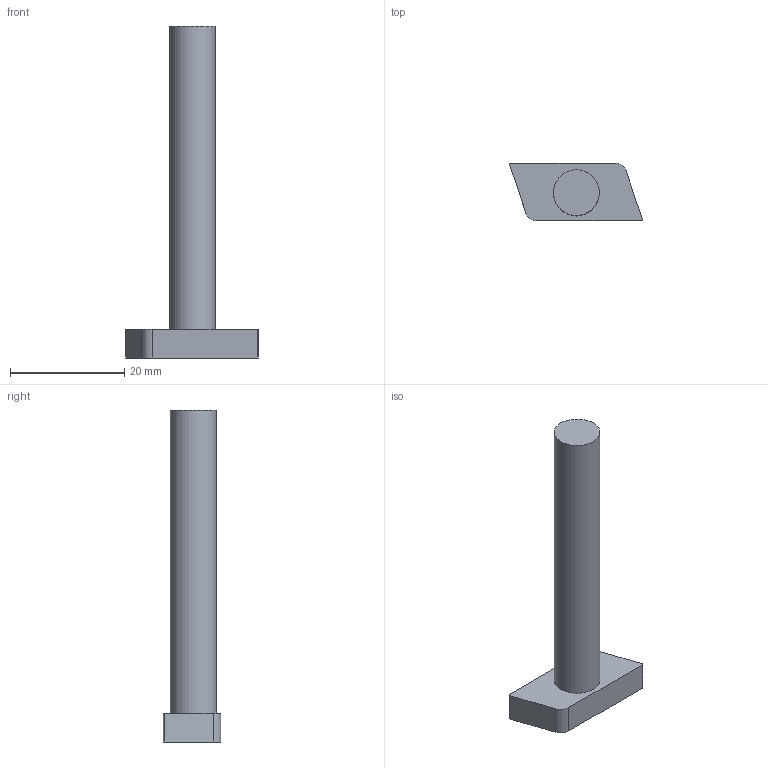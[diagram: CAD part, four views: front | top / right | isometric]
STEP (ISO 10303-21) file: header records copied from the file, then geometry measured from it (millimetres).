
FILE_DESCRIPTION((''),'2;1');
FILE_NAME('C:\Vault Klient\Projekt\Step\100-6090.stp','2009-12-10T12:48:17',('Mathias'),(''),'Autodesk Inventor 2010','Autodesk Inventor 2010','');
FILE_SCHEMA(('CONFIG_CONTROL_DESIGN'));
Length unit declared in the file: millimetre
Products named in the file (1): 100-6090
Bounding box: 23.21 x 10.11 x 58 mm (x, y, z)
Volume: 3670.5 mm3; surface area: 2035.5 mm2
Topology: 1 solids, 1 shells, 12 faces, 27 edges, 18 vertices
Faces by surface type: plane 7, cylinder 5
Full cylindrical faces by diameter (mm): 8 x1
Entity records: 362 total; most frequent: DIRECTION 62, CARTESIAN_POINT 57, ORIENTED_EDGE 52, EDGE_CURVE 26, AXIS2_PLACEMENT_3D 23, VERTEX_POINT 18, VECTOR 16, LINE 16
